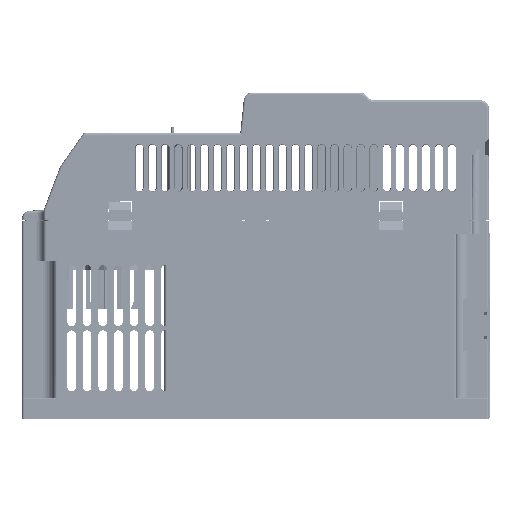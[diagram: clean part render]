
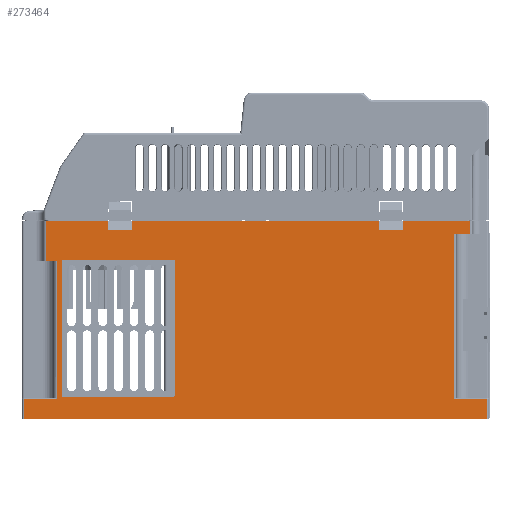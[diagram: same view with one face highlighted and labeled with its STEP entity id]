
A CAD part, left-side view. The second image highlights one B-rep face of the part: STEP entity #273464.
In plain terms, the highlighted planar face has unit normal (-1, 0, 0).
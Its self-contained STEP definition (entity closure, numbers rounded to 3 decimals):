
#4570=FACE_BOUND('',#36269,.T.);
#12218=PLANE('',#289599);
#20928=FACE_OUTER_BOUND('',#36268,.T.);
#36268=EDGE_LOOP('',(#186914,#186915,#186916,#186917,#186918,#186919,#186920,
#186921,#186922,#186923,#186924,#186925,#186926,#186927,#186928,#186929,
#186930,#186931,#186932,#186933));
#36269=EDGE_LOOP('',(#186934,#186935,#186936,#186937,#186938,#186939,#186940,
#186941));
#53056=LINE('',#379470,#81036);
#53060=LINE('',#379491,#81040);
#53079=LINE('',#379622,#81059);
#53399=LINE('',#380427,#81379);
#53405=LINE('',#380442,#81385);
#53526=LINE('',#380788,#81506);
#53527=LINE('',#380791,#81507);
#53528=LINE('',#380793,#81508);
#53529=LINE('',#380795,#81509);
#53530=LINE('',#380797,#81510);
#53531=LINE('',#380799,#81511);
#53532=LINE('',#380801,#81512);
#53533=LINE('',#380803,#81513);
#53534=LINE('',#380805,#81514);
#53535=LINE('',#380807,#81515);
#53536=LINE('',#380809,#81516);
#53537=LINE('',#380811,#81517);
#53538=LINE('',#380813,#81518);
#53539=LINE('',#380815,#81519);
#53540=LINE('',#380817,#81520);
#53541=LINE('',#380818,#81521);
#53542=LINE('',#380819,#81522);
#53543=LINE('',#380820,#81523);
#53544=LINE('',#380821,#81524);
#81036=VECTOR('',#310109,10.);
#81040=VECTOR('',#310129,10.);
#81059=VECTOR('',#310202,10.);
#81379=VECTOR('',#310726,10.);
#81385=VECTOR('',#310742,10.);
#81506=VECTOR('',#310983,10.);
#81507=VECTOR('',#310986,10.);
#81508=VECTOR('',#310987,10.);
#81509=VECTOR('',#310988,10.);
#81510=VECTOR('',#310989,10.);
#81511=VECTOR('',#310990,10.);
#81512=VECTOR('',#310991,10.);
#81513=VECTOR('',#310992,10.);
#81514=VECTOR('',#310993,10.);
#81515=VECTOR('',#310994,10.);
#81516=VECTOR('',#310995,10.);
#81517=VECTOR('',#310996,10.);
#81518=VECTOR('',#310997,10.);
#81519=VECTOR('',#310998,10.);
#81520=VECTOR('',#310999,10.);
#81521=VECTOR('',#311000,10.);
#81522=VECTOR('',#311001,10.);
#81523=VECTOR('',#311002,10.);
#81524=VECTOR('',#311003,10.);
#109090=CIRCLE('',#289500,0.5);
#109122=CIRCLE('',#289535,0.5);
#109123=CIRCLE('',#289537,0.5);
#109124=CIRCLE('',#289540,0.5);
#116463=VERTEX_POINT('',#379455);
#116465=VERTEX_POINT('',#379461);
#116473=VERTEX_POINT('',#379488);
#116474=VERTEX_POINT('',#379490);
#116508=VERTEX_POINT('',#379619);
#116509=VERTEX_POINT('',#379621);
#116828=VERTEX_POINT('',#380294);
#116829=VERTEX_POINT('',#380296);
#116892=VERTEX_POINT('',#380426);
#116893=VERTEX_POINT('',#380430);
#116894=VERTEX_POINT('',#380434);
#116895=VERTEX_POINT('',#380436);
#116896=VERTEX_POINT('',#380440);
#116897=VERTEX_POINT('',#380444);
#117008=VERTEX_POINT('',#380790);
#117009=VERTEX_POINT('',#380792);
#117010=VERTEX_POINT('',#380794);
#117011=VERTEX_POINT('',#380796);
#117012=VERTEX_POINT('',#380798);
#117013=VERTEX_POINT('',#380800);
#117014=VERTEX_POINT('',#380802);
#117015=VERTEX_POINT('',#380804);
#117016=VERTEX_POINT('',#380806);
#117017=VERTEX_POINT('',#380808);
#117018=VERTEX_POINT('',#380810);
#117019=VERTEX_POINT('',#380812);
#117020=VERTEX_POINT('',#380814);
#117021=VERTEX_POINT('',#380816);
#144248=EDGE_CURVE('',#116465,#116463,#53056,.T.);
#144258=EDGE_CURVE('',#116473,#116474,#53060,.T.);
#144300=EDGE_CURVE('',#116508,#116509,#53079,.T.);
#144639=EDGE_CURVE('',#116828,#116829,#109090,.T.);
#144704=EDGE_CURVE('',#116892,#116829,#53399,.T.);
#144706=EDGE_CURVE('',#116892,#116893,#109122,.T.);
#144709=EDGE_CURVE('',#116894,#116895,#109123,.T.);
#144712=EDGE_CURVE('',#116894,#116896,#53405,.T.);
#144714=EDGE_CURVE('',#116897,#116896,#109124,.T.);
#144858=EDGE_CURVE('',#116509,#116473,#53526,.T.);
#144859=EDGE_CURVE('',#117008,#116465,#53527,.T.);
#144860=EDGE_CURVE('',#117008,#117009,#53528,.T.);
#144861=EDGE_CURVE('',#117010,#117009,#53529,.T.);
#144862=EDGE_CURVE('',#117010,#117011,#53530,.T.);
#144863=EDGE_CURVE('',#117011,#117012,#53531,.T.);
#144864=EDGE_CURVE('',#117012,#117013,#53532,.T.);
#144865=EDGE_CURVE('',#117013,#117014,#53533,.T.);
#144866=EDGE_CURVE('',#117014,#117015,#53534,.T.);
#144867=EDGE_CURVE('',#117015,#117016,#53535,.T.);
#144868=EDGE_CURVE('',#117016,#117017,#53536,.T.);
#144869=EDGE_CURVE('',#117017,#117018,#53537,.T.);
#144870=EDGE_CURVE('',#117018,#117019,#53538,.T.);
#144871=EDGE_CURVE('',#117020,#117019,#53539,.T.);
#144872=EDGE_CURVE('',#117021,#117020,#53540,.T.);
#144873=EDGE_CURVE('',#116474,#117021,#53541,.T.);
#144874=EDGE_CURVE('',#116463,#116508,#53542,.T.);
#144875=EDGE_CURVE('',#116897,#116893,#53543,.T.);
#144876=EDGE_CURVE('',#116828,#116895,#53544,.T.);
#186914=ORIENTED_EDGE('',*,*,#144859,.F.);
#186915=ORIENTED_EDGE('',*,*,#144860,.T.);
#186916=ORIENTED_EDGE('',*,*,#144861,.F.);
#186917=ORIENTED_EDGE('',*,*,#144862,.T.);
#186918=ORIENTED_EDGE('',*,*,#144863,.T.);
#186919=ORIENTED_EDGE('',*,*,#144864,.T.);
#186920=ORIENTED_EDGE('',*,*,#144865,.T.);
#186921=ORIENTED_EDGE('',*,*,#144866,.T.);
#186922=ORIENTED_EDGE('',*,*,#144867,.T.);
#186923=ORIENTED_EDGE('',*,*,#144868,.T.);
#186924=ORIENTED_EDGE('',*,*,#144869,.T.);
#186925=ORIENTED_EDGE('',*,*,#144870,.T.);
#186926=ORIENTED_EDGE('',*,*,#144871,.F.);
#186927=ORIENTED_EDGE('',*,*,#144872,.F.);
#186928=ORIENTED_EDGE('',*,*,#144873,.F.);
#186929=ORIENTED_EDGE('',*,*,#144258,.F.);
#186930=ORIENTED_EDGE('',*,*,#144858,.F.);
#186931=ORIENTED_EDGE('',*,*,#144300,.F.);
#186932=ORIENTED_EDGE('',*,*,#144874,.F.);
#186933=ORIENTED_EDGE('',*,*,#144248,.F.);
#186934=ORIENTED_EDGE('',*,*,#144712,.T.);
#186935=ORIENTED_EDGE('',*,*,#144714,.F.);
#186936=ORIENTED_EDGE('',*,*,#144875,.T.);
#186937=ORIENTED_EDGE('',*,*,#144706,.F.);
#186938=ORIENTED_EDGE('',*,*,#144704,.T.);
#186939=ORIENTED_EDGE('',*,*,#144639,.F.);
#186940=ORIENTED_EDGE('',*,*,#144876,.T.);
#186941=ORIENTED_EDGE('',*,*,#144709,.F.);
#273464=ADVANCED_FACE('',(#20928,#4570),#12218,.T.);
#289500=AXIS2_PLACEMENT_3D('',#380297,#310625,#310626);
#289535=AXIS2_PLACEMENT_3D('',#380431,#310730,#310731);
#289537=AXIS2_PLACEMENT_3D('',#380437,#310736,#310737);
#289540=AXIS2_PLACEMENT_3D('',#380446,#310746,#310747);
#289599=AXIS2_PLACEMENT_3D('',#380789,#310984,#310985);
#310109=DIRECTION('',(0.,-1.,0.));
#310129=DIRECTION('',(0.,-1.,0.));
#310202=DIRECTION('',(0.,1.,0.));
#310625=DIRECTION('center_axis',(-1.,0.,0.));
#310626=DIRECTION('ref_axis',(0.,0.707,-0.707));
#310726=DIRECTION('',(0.,1.,0.));
#310730=DIRECTION('center_axis',(-1.,0.,0.));
#310731=DIRECTION('ref_axis',(0.,-0.707,-0.707));
#310736=DIRECTION('center_axis',(-1.,0.,0.));
#310737=DIRECTION('ref_axis',(0.,0.707,0.707));
#310742=DIRECTION('',(0.,-1.,0.));
#310746=DIRECTION('center_axis',(-1.,0.,0.));
#310747=DIRECTION('ref_axis',(0.,-0.707,0.707));
#310983=DIRECTION('',(0.,0.,1.));
#310984=DIRECTION('center_axis',(-1.,0.,0.));
#310985=DIRECTION('ref_axis',(0.,0.,1.));
#310986=DIRECTION('',(0.,0.,-1.));
#310987=DIRECTION('',(0.,-1.,0.));
#310988=DIRECTION('',(0.,0.,-1.));
#310989=DIRECTION('',(0.,1.,0.));
#310990=DIRECTION('',(0.,0.,-1.));
#310991=DIRECTION('',(0.,1.,0.));
#310992=DIRECTION('',(0.,0.,1.));
#310993=DIRECTION('',(0.,1.,0.));
#310994=DIRECTION('',(0.,0.,-1.));
#310995=DIRECTION('',(0.,1.,0.));
#310996=DIRECTION('',(0.,0.,1.));
#310997=DIRECTION('',(0.,1.,0.));
#310998=DIRECTION('',(0.,0.,1.));
#310999=DIRECTION('',(0.,1.,0.));
#311000=DIRECTION('',(0.,0.,1.));
#311001=DIRECTION('',(0.,0.,-1.));
#311002=DIRECTION('',(0.,0.,-1.));
#311003=DIRECTION('',(0.,0.,1.));
#379455=CARTESIAN_POINT('',(-69.101,-80.071,9.5));
#379461=CARTESIAN_POINT('',(-69.101,-65.071,9.5));
#379470=CARTESIAN_POINT('',(-69.101,-69.728,9.5));
#379488=CARTESIAN_POINT('',(-69.101,132.929,9.5));
#379490=CARTESIAN_POINT('',(-69.101,117.929,9.5));
#379491=CARTESIAN_POINT('',(-69.101,30.179,9.5));
#379619=CARTESIAN_POINT('',(-69.101,-80.071,0.));
#379621=CARTESIAN_POINT('',(-69.101,132.929,0.));
#379622=CARTESIAN_POINT('',(-69.101,-66.071,0.));
#380294=CARTESIAN_POINT('',(-69.101,115.629,11.));
#380296=CARTESIAN_POINT('',(-69.101,115.129,10.5));
#380297=CARTESIAN_POINT('Origin',(-69.101,115.129,11.));
#380426=CARTESIAN_POINT('',(-69.101,63.929,10.5));
#380427=CARTESIAN_POINT('',(-69.101,-1.321,10.5));
#380430=CARTESIAN_POINT('',(-69.101,63.429,11.));
#380431=CARTESIAN_POINT('Origin',(-69.101,63.929,11.));
#380434=CARTESIAN_POINT('',(-69.101,115.129,73.5));
#380436=CARTESIAN_POINT('',(-69.101,115.629,73.));
#380437=CARTESIAN_POINT('Origin',(-69.101,115.129,73.));
#380440=CARTESIAN_POINT('',(-69.101,63.929,73.5));
#380442=CARTESIAN_POINT('',(-69.101,24.779,73.5));
#380444=CARTESIAN_POINT('',(-69.101,63.429,73.));
#380446=CARTESIAN_POINT('Origin',(-69.101,63.929,73.));
#380788=CARTESIAN_POINT('',(-69.101,132.929,0.));
#380789=CARTESIAN_POINT('Origin',(-69.101,-66.071,0.));
#380790=CARTESIAN_POINT('',(-69.101,-65.071,85.3));
#380791=CARTESIAN_POINT('',(-69.101,-65.071,0.));
#380792=CARTESIAN_POINT('',(-69.101,-72.571,85.3));
#380793=CARTESIAN_POINT('',(-69.101,-73.571,85.3));
#380794=CARTESIAN_POINT('',(-69.101,-72.571,91.3));
#380795=CARTESIAN_POINT('',(-69.101,-72.571,46.4));
#380796=CARTESIAN_POINT('',(-69.101,-41.571,91.3));
#380797=CARTESIAN_POINT('',(-69.101,-19.885,91.3));
#380798=CARTESIAN_POINT('',(-69.101,-41.571,87.3));
#380799=CARTESIAN_POINT('',(-69.101,-41.571,46.4));
#380800=CARTESIAN_POINT('',(-69.101,-30.571,87.3));
#380801=CARTESIAN_POINT('',(-69.101,-53.821,87.3));
#380802=CARTESIAN_POINT('',(-69.101,-30.571,91.3));
#380803=CARTESIAN_POINT('',(-69.101,-30.571,46.4));
#380804=CARTESIAN_POINT('',(-69.101,83.429,91.3));
#380805=CARTESIAN_POINT('',(-69.101,-19.885,91.3));
#380806=CARTESIAN_POINT('',(-69.101,83.429,87.3));
#380807=CARTESIAN_POINT('',(-69.101,83.429,44.811));
#380808=CARTESIAN_POINT('',(-69.101,94.429,87.3));
#380809=CARTESIAN_POINT('',(-69.101,8.679,87.3));
#380810=CARTESIAN_POINT('',(-69.101,94.429,91.3));
#380811=CARTESIAN_POINT('',(-69.101,94.429,44.811));
#380812=CARTESIAN_POINT('',(-69.101,122.929,91.3));
#380813=CARTESIAN_POINT('',(-69.101,-19.885,91.3));
#380814=CARTESIAN_POINT('',(-69.101,122.929,72.8));
#380815=CARTESIAN_POINT('',(-69.101,122.929,46.4));
#380816=CARTESIAN_POINT('',(-69.101,117.929,72.8));
#380817=CARTESIAN_POINT('',(-69.101,118.929,72.8));
#380818=CARTESIAN_POINT('',(-69.101,117.929,0.));
#380819=CARTESIAN_POINT('',(-69.101,-80.071,0.));
#380820=CARTESIAN_POINT('',(-69.101,63.429,36.75));
#380821=CARTESIAN_POINT('',(-69.101,115.629,5.25));
